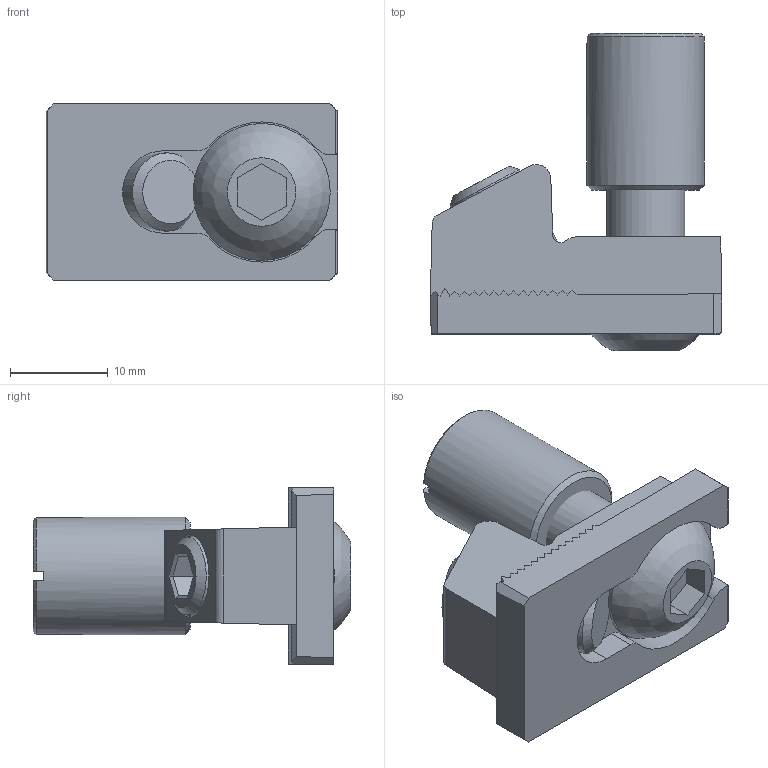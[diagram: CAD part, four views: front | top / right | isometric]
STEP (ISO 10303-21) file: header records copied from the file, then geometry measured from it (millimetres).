
FILE_DESCRIPTION(/* description */ ('STEP AP203'),/* implementation_level */ '2;1');
FILE_NAME(/* name */ '099J10M12',/* time_stamp */ '2026-05-11T13:58:25+02:00',/* author */ ('License CC BY-ND 4.0'),/* organization */ ('CADENAS'),/* preprocessor_version */ 'ST-DEVELOPER v20',/* originating_system */ 'PARTsolutions',/* authorisation */ ' ');
FILE_SCHEMA (('CONFIG_CONTROL_DESIGN'));
Length unit declared in the file: millimetre
Products named in the file (5): 099J10M12; 099J10M12-1; 099J10M12-4; 099J10M12-2; 099J10M12-3
Assembly tree (4 placements, depth 2):
  099J10M12
    099J10M12-1
    099J10M12-4
    099J10M12-2
    099J10M12-3
Bounding box: 29.77 x 32.4 x 18 mm (x, y, z)
Volume: 6876.5 mm3; surface area: 5361.5 mm2
Topology: 4 solids, 4 shells, 142 faces, 458 edges, 301 vertices
Faces by surface type: plane 107, cylinder 20, cone 14, sphere 1
Full cylindrical faces by diameter (mm): 6 x1, 6.8 x2, 8 x2, 12 x1, 14 x1
Entity records: 5025 total; most frequent: CARTESIAN_POINT 924, ORIENTED_EDGE 870, DIRECTION 777, EDGE_CURVE 435, LINE 361, VECTOR 361, VERTEX_POINT 296, AXIS2_PLACEMENT_3D 208
